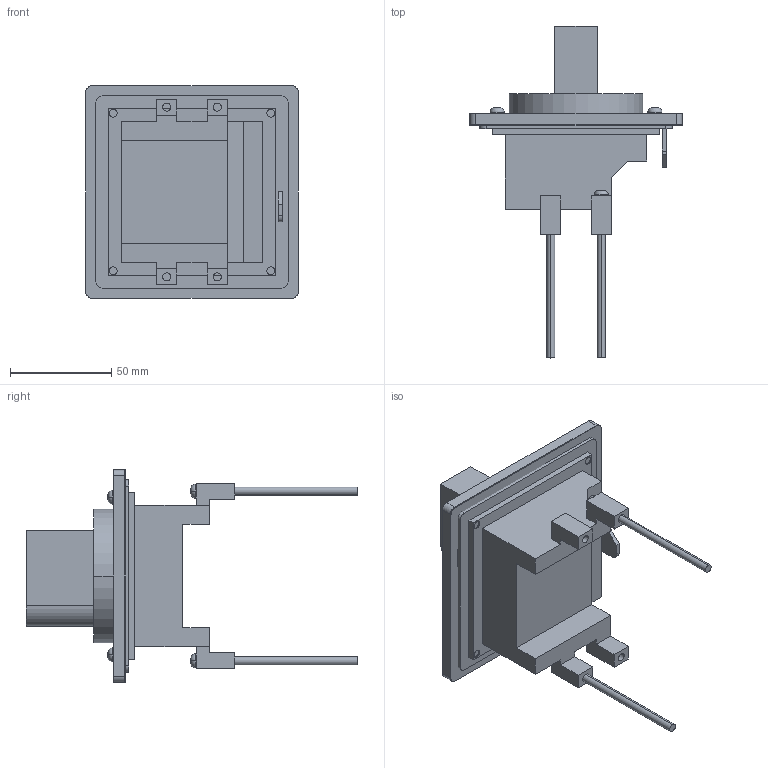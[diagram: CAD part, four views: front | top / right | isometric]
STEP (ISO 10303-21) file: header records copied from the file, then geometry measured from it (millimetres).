
FILE_DESCRIPTION( ( '' ), '1' );
FILE_NAME( 'E:/D&C電子外形図_3D/step/distribution/g-twin/breaker_accessory/handle/BZ6N10D.stp', '2012-10-19T07:55:03', ( '' ), ( '' ), ' ', ' ', ' ' );
FILE_SCHEMA( ( 'automotive_design' ) );
Length unit declared in the file: millimetre
Products named in the file (11): 1; 2; 3; 4; 5; 6; 7; 8; 9; 10; 11
Bounding box: 105 x 164.1 x 105 mm (x, y, z)
Volume: 288626.6 mm3; surface area: 92764 mm2
Topology: 11 solids, 11 shells, 188 faces, 477 edges, 320 vertices
Faces by surface type: plane 90, cylinder 86, torus 12
Entity records: 11598 total; most frequent: DIRECTION 1089, STYLED_ITEM 996, PRESENTATION_STYLE_ASSIGNMENT 996, CARTESIAN_POINT 996, COLOUR_RGB 996, ORIENTED_EDGE 954, EDGE_CURVE 477, CURVE_STYLE 477
